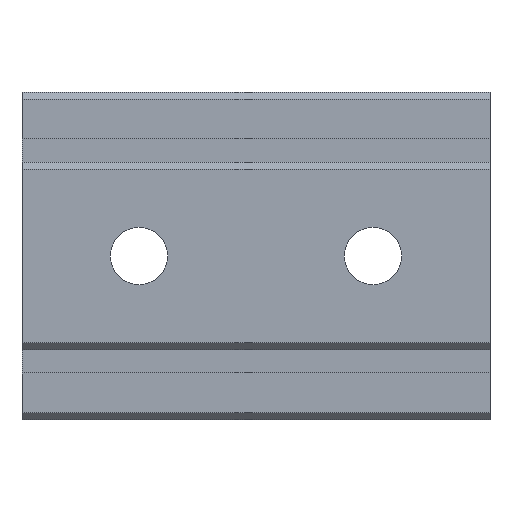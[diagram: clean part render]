
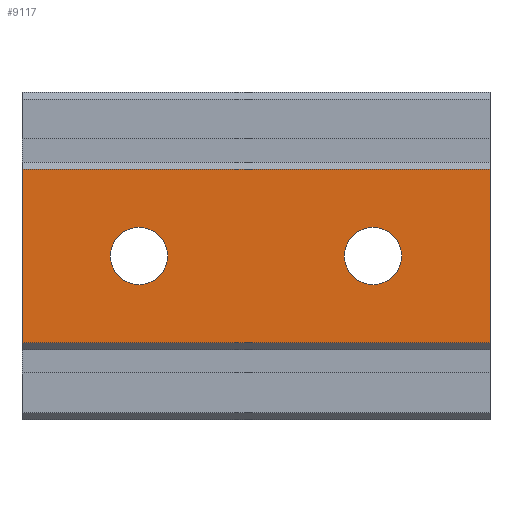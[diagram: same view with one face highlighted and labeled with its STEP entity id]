
A CAD part, front view. The second image highlights one B-rep face of the part: STEP entity #9117.
In plain terms, the highlighted planar face has unit normal (0, -1, 0).
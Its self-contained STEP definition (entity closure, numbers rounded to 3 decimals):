
#34=CIRCLE('',#9655,0.611);
#35=CIRCLE('',#9656,0.611);
#962=ORIENTED_EDGE('',*,*,#3811,.F.);
#963=ORIENTED_EDGE('',*,*,#3812,.F.);
#964=ORIENTED_EDGE('',*,*,#3813,.T.);
#965=ORIENTED_EDGE('',*,*,#3814,.F.);
#966=ORIENTED_EDGE('',*,*,#3815,.F.);
#967=ORIENTED_EDGE('',*,*,#3809,.T.);
#3809=EDGE_CURVE('',#5233,#5232,#6187,.T.);
#3811=EDGE_CURVE('',#5234,#5234,#34,.T.);
#3812=EDGE_CURVE('',#5235,#5235,#35,.T.);
#3813=EDGE_CURVE('',#5232,#5236,#6189,.T.);
#3814=EDGE_CURVE('',#5237,#5236,#6190,.T.);
#3815=EDGE_CURVE('',#5233,#5237,#6191,.T.);
#5232=VERTEX_POINT('',#13853);
#5233=VERTEX_POINT('',#13855);
#5234=VERTEX_POINT('',#13859);
#5235=VERTEX_POINT('',#13861);
#5236=VERTEX_POINT('',#13863);
#5237=VERTEX_POINT('',#13865);
#6187=LINE('',#13854,#7003);
#6189=LINE('',#13862,#7005);
#6190=LINE('',#13864,#7006);
#6191=LINE('',#13866,#7007);
#7003=VECTOR('',#10792,1000.);
#7005=VECTOR('',#10800,1000.);
#7006=VECTOR('',#10801,1000.);
#7007=VECTOR('',#10802,1000.);
#7814=EDGE_LOOP('',(#962));
#7815=EDGE_LOOP('',(#963));
#7816=EDGE_LOOP('',(#964,#965,#966,#967));
#8364=FACE_BOUND('',#7814,.T.);
#8365=FACE_BOUND('',#7815,.T.);
#8366=FACE_BOUND('',#7816,.T.);
#8913=PLANE('',#9654);
#9117=ADVANCED_FACE('',(#8364,#8365,#8366),#8913,.F.);
#9654=AXIS2_PLACEMENT_3D('',#13857,#10794,#10795);
#9655=AXIS2_PLACEMENT_3D('',#13858,#10796,#10797);
#9656=AXIS2_PLACEMENT_3D('',#13860,#10798,#10799);
#10792=DIRECTION('',(-1.,0.,0.));
#10794=DIRECTION('',(0.,1.,0.));
#10795=DIRECTION('',(0.,0.,1.));
#10796=DIRECTION('',(0.,-1.,0.));
#10797=DIRECTION('',(0.,0.,-1.));
#10798=DIRECTION('',(0.,-1.,0.));
#10799=DIRECTION('',(0.,0.,-1.));
#10800=DIRECTION('',(0.,0.,-1.));
#10801=DIRECTION('',(-1.,0.,0.));
#10802=DIRECTION('',(0.,0.,-1.));
#13853=CARTESIAN_POINT('',(-5.,0.,1.85));
#13854=CARTESIAN_POINT('',(5.,0.,1.85));
#13855=CARTESIAN_POINT('',(5.,0.,1.85));
#13857=CARTESIAN_POINT('',(5.,0.,1.85));
#13858=CARTESIAN_POINT('',(2.5,0.,0.));
#13859=CARTESIAN_POINT('',(2.5,0.,-0.611));
#13860=CARTESIAN_POINT('',(-2.5,0.,0.));
#13861=CARTESIAN_POINT('',(-2.5,0.,-0.611));
#13862=CARTESIAN_POINT('',(-5.,0.,1.85));
#13863=CARTESIAN_POINT('',(-5.,0.,-1.85));
#13864=CARTESIAN_POINT('',(5.,0.,-1.85));
#13865=CARTESIAN_POINT('',(5.,0.,-1.85));
#13866=CARTESIAN_POINT('',(5.,0.,1.85));
